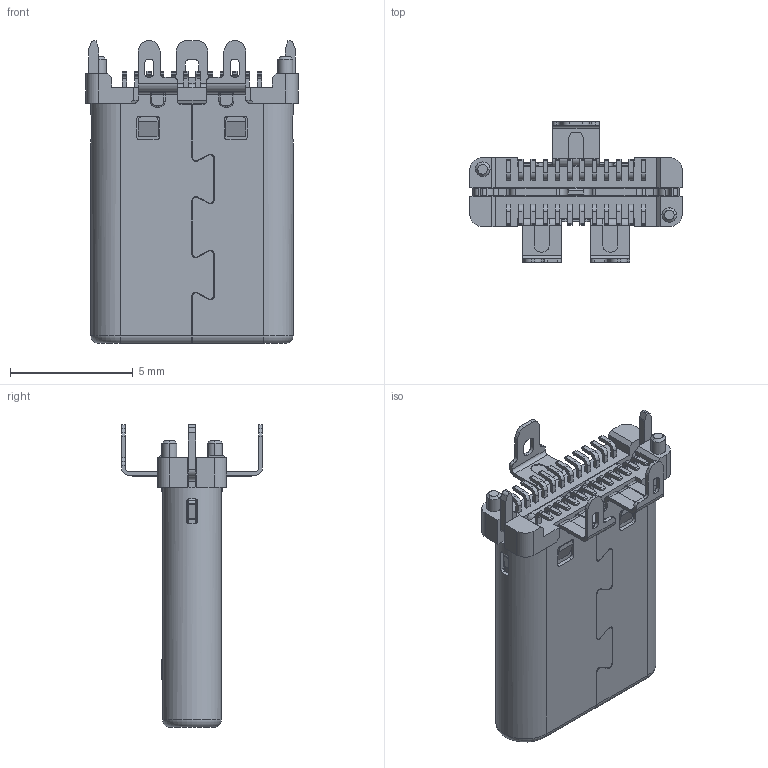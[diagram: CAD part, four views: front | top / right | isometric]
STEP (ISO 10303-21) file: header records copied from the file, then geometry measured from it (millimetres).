
FILE_DESCRIPTION (( 'STEP AP214' ), '1' );
FILE_NAME ('U5328-24PN11.1L.STEP', '2026-07-30T06:57:08', ( '' ), ( '' ), 'SwSTEP 2.0', 'SolidWorks 2024', '' );
FILE_SCHEMA (( 'AUTOMOTIVE_DESIGN' ));
Length unit declared in the file: millimetre
Products named in the file (5): TYPE_C_24PIN_11_10001_ASM_4_ASM_ASM; 1_ASM_1_ASM; U5328-24PN11.1L; U5328-24PN11.1L(2); PRT0001
Assembly tree (4 placements, depth 5):
  U5328-24PN11.1L
    U5328-24PN11.1L(2)
      1_ASM_1_ASM
        TYPE_C_24PIN_11_10001_ASM_4_ASM_ASM
          PRT0001
Bounding box: 8.66 x 5.75 x 12.35 mm (x, y, z)
Volume: 133.2 mm3; surface area: 1197.1 mm2
Topology: 3 solids, 10 shells, 3043 faces, 8756 edges, 5729 vertices
Faces by surface type: plane 2135, cylinder 768, bspline 65, cone 51, torus 24
Entity records: 103392 total; most frequent: CARTESIAN_POINT 25453, ORIENTED_EDGE 17512, DIRECTION 14313, EDGE_CURVE 8756, LINE 6023, VECTOR 6023, VERTEX_POINT 5729, AXIS2_PLACEMENT_3D 4145
